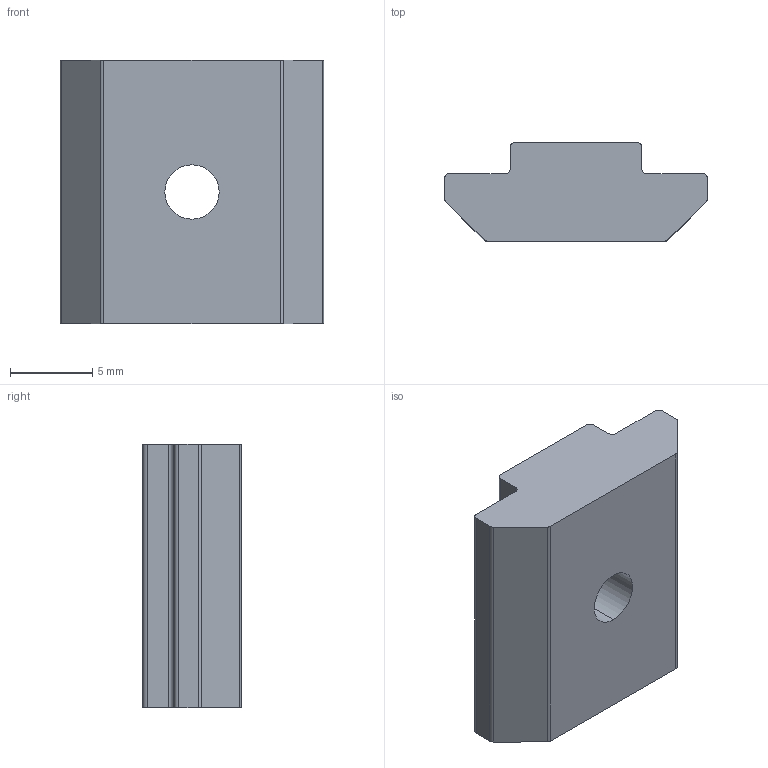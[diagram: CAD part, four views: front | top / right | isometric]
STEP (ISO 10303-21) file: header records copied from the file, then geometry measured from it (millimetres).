
FILE_DESCRIPTION (( 'STEP AP214' ), '1' );
FILE_NAME ('096014.STEP', '2012-02-22T08:14:51', ( 'de01pc046' ), ( 'Fath GmbH' ), 'SwSTEP 2.0', 'SolidWorks 2011', '' );
FILE_SCHEMA (( 'AUTOMOTIVE_DESIGN' ));
Length unit declared in the file: millimetre
Products named in the file (1): 096014
Bounding box: 16 x 6 x 16 mm (x, y, z)
Volume: 1140.7 mm3; surface area: 838.1 mm2
Topology: 1 solids, 1 shells, 24 faces, 66 edges, 44 vertices
Faces by surface type: cylinder 12, plane 12
Entity records: 834 total; most frequent: DIRECTION 140, CARTESIAN_POINT 135, ORIENTED_EDGE 132, EDGE_CURVE 66, AXIS2_PLACEMENT_3D 49, VERTEX_POINT 44, LINE 42, VECTOR 42
